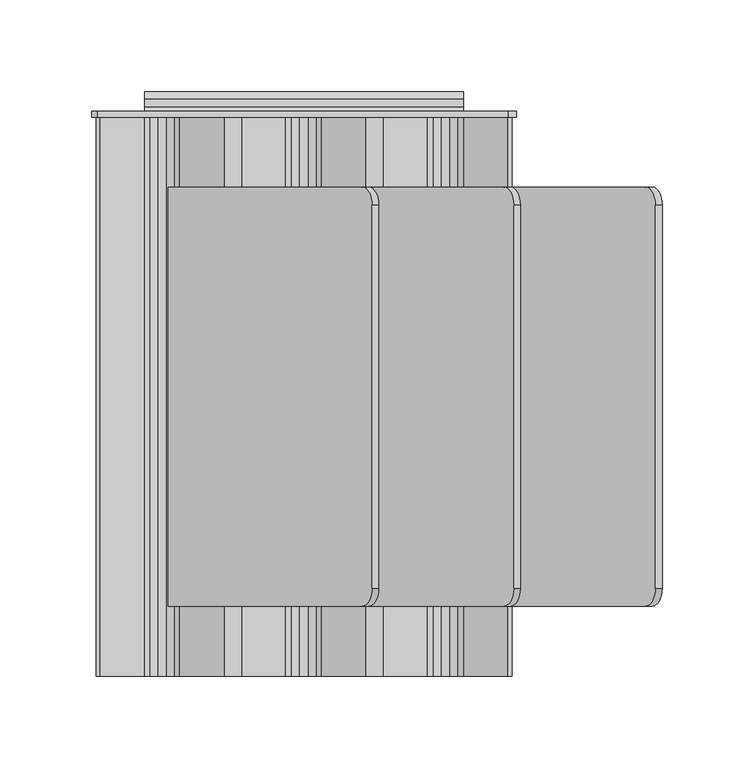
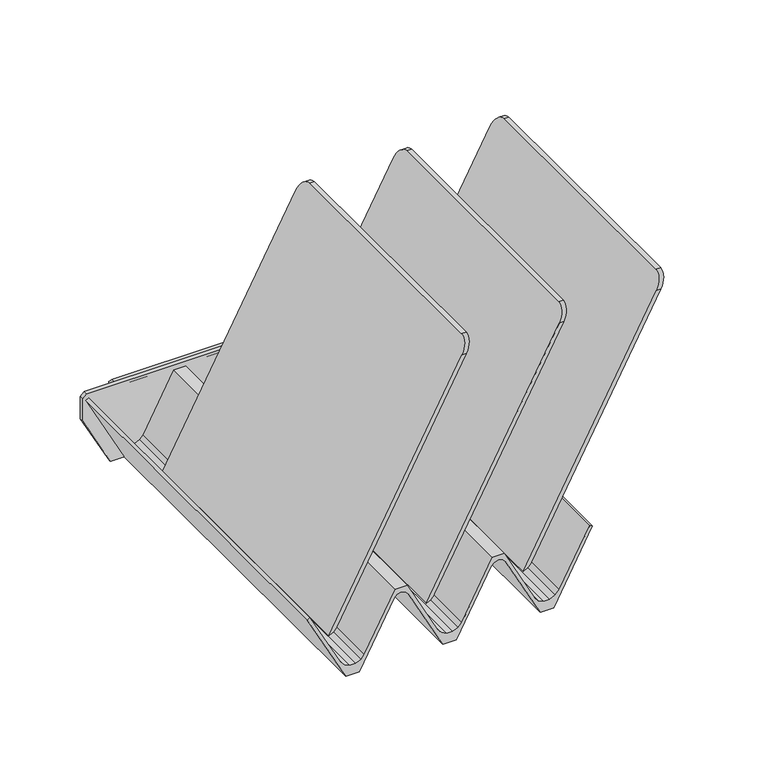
"""IFC4 building model written with IfcOpenShell, lengths in millimetres: furniture geometry."""

import ifcopenshell
import ifcopenshell.guid

model = None  # the IFC model being written
_history = None  # IfcOwnerHistory: only IFC2X3 demands one
_inside = {}  # id of a spatial element -> (the spatial element, [elements in it])
_under = {}  # id of a project, library or spatial element -> (it, [spatial elements below it])
_declared = {}  # id of a project -> (the project, [libraries it declares])
_typed = {}  # id of a type object -> (the type object, [elements of that type])
_made_of = {}  # id of a material, layer set ... -> (it, [elements and type objects made of it])


def new_model(schema):
    """Start an empty IFC model of exactly this schema.

    Asked for "IFC4X3", IfcOpenShell would pick the latest addendum, in which some entities
    have other attributes; the version numbers below select the first issue.
    IFC2X3 requires an IfcOwnerHistory on every rooted entity: one is made here for all.
    """
    global model, _history
    if schema == "IFC4X3":
        model = ifcopenshell.file(schema_version=(4, 3, 0, 0))
    else:
        model = ifcopenshell.file(schema=schema)
    _inside.clear()
    _under.clear()
    _declared.clear()
    _typed.clear()
    _made_of.clear()
    _history = None
    if model.schema == "IFC2X3":
        org = make("IfcOrganization", Name="unknown")
        user = make(
            "IfcPersonAndOrganization",
            ThePerson=make("IfcPerson", FamilyName="unknown"),
            TheOrganization=org,
        )
        app = make(
            "IfcApplication",
            ApplicationDeveloper=org,
            Version="unknown",
            ApplicationFullName="unknown",
            ApplicationIdentifier="unknown",
        )
        _history = make(
            "IfcOwnerHistory",
            OwningUser=user,
            OwningApplication=app,
            ChangeAction="ADDED",
            CreationDate=0,
        )
    return model


def make(cls, **values):
    """One entity of the class cls with the attributes given. An attribute that is None is left unset."""
    return model.create_entity(
        cls, **{name: value for name, value in values.items() if value is not None}
    )


def rooted(cls, **values):
    """An entity with a GlobalId (a new one), such as an element, a storey or a relation."""
    return make(cls, GlobalId=ifcopenshell.guid.new(), OwnerHistory=_history, **values)


def si_unit(unit_type, name, prefix=None):
    """IfcSIUnit, for example si_unit("LENGTHUNIT", "METRE", prefix="MILLI")."""
    return make("IfcSIUnit", UnitType=unit_type, Prefix=prefix, Name=name)


def assignment(units):
    """IfcUnitAssignment: the units of a project."""
    return None if units is None else make("IfcUnitAssignment", Units=units)


def point(xyz):
    """IfcCartesianPoint."""
    return None if xyz is None else make("IfcCartesianPoint", Coordinates=xyz)


def direction(xyz):
    """IfcDirection."""
    return None if xyz is None else make("IfcDirection", DirectionRatios=xyz)


def frame(location, z_axis=None, x_axis=None):
    """IfcAxis2Placement3D, a coordinate frame: its origin and axes. An axis left out is left unset."""
    return make(
        "IfcAxis2Placement3D",
        Location=point(location),
        Axis=direction(z_axis),
        RefDirection=direction(x_axis),
    )


def frame_2d(location, x_axis=None):
    """IfcAxis2Placement2D, a coordinate frame in the plane: its origin and x axis."""
    return make(
        "IfcAxis2Placement2D", Location=point(location), RefDirection=direction(x_axis)
    )


def origin():
    """The frame at (0, 0, 0) with its axes left unset."""
    return frame((0.0, 0.0, 0.0))


def place(relative_to, where):
    """IfcLocalPlacement: puts the frame where relative to a parent placement (None: the world)."""
    return make(
        "IfcLocalPlacement", PlacementRelTo=relative_to, RelativePlacement=where
    )


def context(
    kind, dimensions, precision=None, world=None, true_north=None, identifier=None
):
    """IfcGeometricRepresentationContext, for example the 3D "Model" context."""
    return make(
        "IfcGeometricRepresentationContext",
        ContextIdentifier=identifier,
        ContextType=kind,
        CoordinateSpaceDimension=dimensions,
        Precision=precision,
        WorldCoordinateSystem=world,
        TrueNorth=true_north,
    )


def project(units=None, contexts=None):
    """IfcProject with its units and contexts."""
    return rooted(
        "IfcProject",
        Name="project",
        RepresentationContexts=contexts,
        UnitsInContext=assignment(units),
    )


def spatial(cls, under=None, at=None, **own):
    """A site, building, storey or space (cls), placed at a placement, below another one or the project."""
    s = rooted(cls, ObjectPlacement=at, **own)
    if under is not None:
        _under.setdefault(under.id(), (under, []))[1].append(s)
    return s


def polyline(points):
    """IfcPolyline through the points."""
    return make("IfcPolyline", Points=[point(p) for p in points])


def circle_curve(where, radius):
    """IfcCircle in the frame where."""
    return make("IfcCircle", Position=where, Radius=radius)


def ellipse_curve(where, semi_axis1, semi_axis2):
    """IfcEllipse in the frame where."""
    return make(
        "IfcEllipse", Position=where, SemiAxis1=semi_axis1, SemiAxis2=semi_axis2
    )


def trimmed(basis, trim1, trim2, sense, master):
    """IfcTrimmedCurve: the piece of a basis curve between two trims."""
    return make(
        "IfcTrimmedCurve",
        BasisCurve=basis,
        Trim1=trim1,
        Trim2=trim2,
        SenseAgreement=sense,
        MasterRepresentation=master,
    )


def segment(curve, same_sense, transition):
    """IfcCompositeCurveSegment."""
    return make(
        "IfcCompositeCurveSegment",
        Transition=transition,
        SameSense=same_sense,
        ParentCurve=curve,
    )


def composite_curve(segments, self_intersect=None):
    """IfcCompositeCurve: segments joined end to end."""
    return make("IfcCompositeCurve", Segments=segments, SelfIntersect=self_intersect)


def outline(outer, holes=None, kind="AREA"):
    """IfcArbitraryClosedProfileDef: a profile drawn as a closed curve; with holes, ...WithVoids."""
    if holes is None:
        return make("IfcArbitraryClosedProfileDef", ProfileType=kind, OuterCurve=outer)
    return make(
        "IfcArbitraryProfileDefWithVoids",
        ProfileType=kind,
        OuterCurve=outer,
        InnerCurves=holes,
    )


def extrude(swept, where, along, depth):
    """IfcExtrudedAreaSolid: the profile swept, set in the frame where, extruded along a direction by depth."""
    return make(
        "IfcExtrudedAreaSolid",
        SweptArea=swept,
        Position=where,
        ExtrudedDirection=direction(along),
        Depth=depth,
    )


def shape(context_of_items, identifier, shape_type, items):
    """IfcShapeRepresentation: the items that make up one representation, for example the "Body"."""
    return make(
        "IfcShapeRepresentation",
        ContextOfItems=context_of_items,
        RepresentationIdentifier=identifier,
        RepresentationType=shape_type,
        Items=items,
    )


def source(mapping_origin, context_of_items, identifier, shape_type, items):
    """IfcRepresentationMap: a shape defined once, which mapped items show again and again."""
    return make(
        "IfcRepresentationMap",
        MappingOrigin=mapping_origin,
        MappedRepresentation=shape(context_of_items, identifier, shape_type, items),
    )


def transform(
    local_origin,
    x_axis=None,
    y_axis=None,
    z_axis=None,
    scale=None,
    scale2=None,
    scale3=None,
    uniform=True,
):
    """IfcCartesianTransformationOperator3D, or its non-uniform kind. x_axis, y_axis, z_axis: its Axis1, 2, 3."""
    if uniform:
        return make(
            "IfcCartesianTransformationOperator3D",
            Axis1=direction(x_axis),
            Axis2=direction(y_axis),
            LocalOrigin=point(local_origin),
            Scale=scale,
            Axis3=direction(z_axis),
        )
    return make(
        "IfcCartesianTransformationOperator3DnonUniform",
        Axis1=direction(x_axis),
        Axis2=direction(y_axis),
        LocalOrigin=point(local_origin),
        Scale=scale,
        Axis3=direction(z_axis),
        Scale2=scale2,
        Scale3=scale3,
    )


def mapped(mapping_source, mapping_target):
    """IfcMappedItem: shows the shape of a source again, moved by a transform."""
    return make(
        "IfcMappedItem", MappingSource=mapping_source, MappingTarget=mapping_target
    )


def made_of(thing, what):
    """Note that an element or type object is made of a material, layer set ...; save() writes the relation."""
    if what is not None:
        _made_of.setdefault(what.id(), (what, []))[1].append(thing)
    return thing


def element(
    cls,
    number,
    at=None,
    inside=None,
    cuts=None,
    type_object=None,
    material=None,
    context=None,
    identifier="Body",
    shape_type=None,
    held_by="IfcProductDefinitionShape",
    body=None,
    shapes=None,
    **own,
):
    """One element of the class cls, such as IfcWall. Its Tag is "e" and its number.

    at: its placement. inside: the storey or other place that contains it. cuts: it is an
    opening in that element (IfcRelVoidsElement). A single representation is given by context,
    identifier, shape_type and body (its items); several are given by shapes. held_by: the class
    of the entity that holds the representations. save() writes the other relations.
    """
    e = rooted(cls, Tag="e%d" % number, ObjectPlacement=at, **own)
    if body is not None:
        shapes = [shape(context, identifier, shape_type, body)]
    if shapes is not None:
        e.Representation = make(held_by, Representations=shapes)
    if inside is not None:
        _inside.setdefault(inside.id(), (inside, []))[1].append(e)
    if cuts is not None:
        rooted(
            "IfcRelVoidsElement", RelatingBuildingElement=cuts, RelatedOpeningElement=e
        )
    if type_object is not None:
        _typed.setdefault(type_object.id(), (type_object, []))[1].append(e)
    return made_of(e, material)


def aggregate(whole, parts):
    """IfcRelAggregates: a whole, such as a stair, and the parts it consists of."""
    return rooted("IfcRelAggregates", RelatingObject=whole, RelatedObjects=parts)


def save(model, path):
    """Write the relations noted so far, then the file.

    IfcRelAggregates (storeys below a building ...), IfcRelContainedInSpatialStructure (elements
    in a storey), IfcRelDefinesByType, IfcRelAssociatesMaterial and IfcRelDeclares: one each for
    every whole, place, type object, material and project.
    """
    for whole, parts in _under.values():
        aggregate(whole, parts)
    for where, things in _inside.values():
        rooted(
            "IfcRelContainedInSpatialStructure",
            RelatedElements=things,
            RelatingStructure=where,
        )
    for kind, things in _typed.values():
        rooted("IfcRelDefinesByType", RelatedObjects=things, RelatingType=kind)
    for what, things in _made_of.values():
        rooted("IfcRelAssociatesMaterial", RelatedObjects=things, RelatingMaterial=what)
    for by, libraries in _declared.values():
        rooted("IfcRelDeclares", RelatingContext=by, RelatedDefinitions=libraries)
    model.write(path)


def plane_surface(at):
    """IfcPlane: the flat surface through the origin of the frame at, square to its z axis."""
    return make("IfcPlane", Position=at)


def cylinder_surface(at, radius):
    """IfcCylindricalSurface: all points at the distance radius from the z axis of the frame at."""
    return make("IfcCylindricalSurface", Position=at, Radius=radius)


def advanced_brep(points, edges, surfaces, faces):
    """IfcAdvancedBrep: a solid bounded by faces that lie on surfaces and meet in shared edges.

    An edge is (start, end): straight between two places in points (the first is 0);
    or (start, end, curve); or (start, end, curve, False) where it runs against its curve.
    A face is (place in surfaces, loops), or (place, loops, False) where it looks against
    its surface's normal. A loop lists edges by number (the first is 1), with a minus sign
    where the edge is run from its end to its start. The first loop is the outer one.
    """
    corners = [point(p) for p in points]
    vertices = [make("IfcVertexPoint", VertexGeometry=c) for c in corners]
    made = []
    for start, end, *more in edges:
        made.append(
            make(
                "IfcEdgeCurve",
                EdgeStart=vertices[start],
                EdgeEnd=vertices[end],
                EdgeGeometry=more[0] if more else make("IfcPolyline", Points=[corners[start], corners[end]]),
                SameSense=more[1] if len(more) > 1 else True,
            )
        )
    hull = []
    for where, loops, *sense in faces:
        bounds = []
        for j, loop in enumerate(loops):
            ring = [make("IfcOrientedEdge", EdgeElement=made[abs(k) - 1], Orientation=k > 0) for k in loop]
            bounds.append(
                make(
                    "IfcFaceOuterBound" if j == 0 else "IfcFaceBound",
                    Bound=make("IfcEdgeLoop", EdgeList=ring),
                    Orientation=True,
                )
            )
        hull.append(make("IfcAdvancedFace", Bounds=bounds, FaceSurface=surfaces[where], SameSense=sense[0] if sense else True))
    return make("IfcAdvancedBrep", Outer=make("IfcClosedShell", CfsFaces=hull))


def furniture_23395ff5(model_context):
    return source(origin(), model_context, "Body", "SolidModel", [
        advanced_brep(
        [(-78.5076305, -115.8875182, 752.475), (-74.9117341, -115.8875182, 752.475), (35.3237269, -115.8875182, 959.7977434), (31.7278836, -115.8875182, 959.7977434), (-74.9117341, 112.7124864, 752.475), (-78.5076305, 112.7124864, 752.475), (31.7278836, 112.7124864, 959.7977434), (35.3237269, 112.7124864, 959.7977434), (40.728424, 102.8883555, 969.9625), (40.728424, -105.9830355, 969.9625), (37.1325833, 102.8883555, 969.9625), (37.1325833, -105.9830355, 969.9625)],
        [
            (0, 1),
            (1, 2),
            (2, 3),
            (3, 0),
            (4, 5),
            (5, 6),
            (6, 7),
            (7, 4),
            (0, 5),
            (4, 1),
            (7, 8, ellipse_curve(frame((35.3237269, 102.5418246, 959.7977434), z_axis=(0.8829475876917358, 0.0, -0.46947157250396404), x_axis=(-0.4694715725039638, 0.0, -0.8829475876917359)), 11.518987, 10.1706618)),
            (8, 9),
            (9, 2, ellipse_curve(frame((35.3237269, -105.7193418, 959.7977434), z_axis=(0.8829475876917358, 0.0, -0.46947157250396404), x_axis=(-0.4694715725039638, 0.0, -0.8829475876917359)), 11.5161721, 10.1681764)),
            (8, 10),
            (10, 11),
            (11, 9),
            (3, 11, ellipse_curve(frame((31.7278836, -105.7193418, 959.7977434), z_axis=(-0.8829474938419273, 0.0, 0.46947174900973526), x_axis=(-0.4694717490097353, 0.0, -0.8829474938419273)), 11.5161734, 10.1681764)),
            (10, 6, ellipse_curve(frame((31.7278836, 102.5418246, 959.7977434), z_axis=(-0.8829474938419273, 0.0, 0.46947174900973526), x_axis=(-0.4694717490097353, 0.0, -0.8829474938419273)), 11.5189882, 10.1706618)),
        ],
        [
            plane_surface(frame((-78.5076305, -115.8875182, 752.475), z_axis=(0.0, -1.0, 0.0), x_axis=(1.0, 0.0, 0.0))),
            plane_surface(frame((-78.5076305, 112.7124864, 752.475), z_axis=(0.0, 1.0, 0.0), x_axis=(-1.0, 0.0, 0.0))),
            plane_surface(frame((-78.5076305, -115.8875182, 752.475), z_axis=(0.0, 0.0, -1.0), x_axis=(0.0, 1.0, 0.0))),
            plane_surface(frame((-74.9117341, -115.8875182, 752.475), z_axis=(0.8829475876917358, 0.0, -0.46947157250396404), x_axis=(0.0, 1.0, 0.0))),
            plane_surface(frame((40.728424, -115.8875182, 969.9625), z_axis=(0.0, 0.0, 1.0), x_axis=(0.0, 1.0, 0.0))),
            plane_surface(frame((37.1325833, -115.8875182, 969.9625), z_axis=(-0.8829474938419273, 0.0, 0.46947174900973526), x_axis=(0.0, 1.0, 0.0))),
            cylinder_surface(frame((0.0, 102.5418246, 959.7977434), z_axis=(-1.0, 0.0, 0.0), x_axis=(0.0, 1.0, 0.0)), 10.1706618),
            cylinder_surface(frame((0.0, -105.7193418, 959.7977434), z_axis=(-1.0, 0.0, 0.0), x_axis=(0.0, 1.0, 0.0)), 10.1681764),
        ],
        [
            (0, [[1, 2, 3, 4]]),
            (1, [[5, 6, 7, 8]]),
            (2, [[-1, 9, -5, 10]]),
            (3, [[-10, -8, 11, 12, 13, -2]]),
            (4, [[-12, 14, 15, 16]]),
            (5, [[-9, -4, 17, -15, 18, -6]]),
            (6, [[-7, -18, -14, -11]]),
            (7, [[-3, -13, -16, -17]]),
        ],
    ),
        advanced_brep(
        [(-0.9107932, -115.8875182, 752.475), (2.3550823, -115.8875182, 752.475), (112.5905464, -115.8875182, 959.7977434), (109.0097063, -115.8875182, 959.7977434), (2.3550823, 112.7124864, 752.475), (-0.9107932, 112.7124864, 752.475), (109.0097063, 112.7124864, 959.7977434), (112.5905464, 112.7124864, 959.7977434), (117.9952436, 102.8883555, 969.9625), (117.9952436, -105.9830355, 969.9625), (114.3989613, 102.8883555, 969.9625), (114.3989613, -105.9830355, 969.9625)],
        [
            (0, 1),
            (1, 2),
            (2, 3),
            (3, 0),
            (4, 5),
            (5, 6),
            (6, 7),
            (7, 4),
            (0, 5),
            (4, 1),
            (7, 8, ellipse_curve(frame((112.5905464, 102.5418246, 959.7977434), z_axis=(0.882947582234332, 0.0, -0.46947158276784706), x_axis=(-0.46947158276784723, 0.0, -0.882947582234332)), 11.518987, 10.1706618)),
            (8, 9),
            (9, 2, ellipse_curve(frame((112.5905464, -105.7193418, 959.7977434), z_axis=(0.882947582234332, 0.0, -0.46947158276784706), x_axis=(-0.46947158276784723, 0.0, -0.882947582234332)), 11.5161722, 10.1681764)),
            (8, 10),
            (10, 11),
            (11, 9),
            (3, 11, ellipse_curve(frame((109.0097063, -105.7193418, 959.7977434), z_axis=(-0.88350333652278, 0.0, 0.46842486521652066), x_axis=(-0.4684248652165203, 0.0, -0.8835033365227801)), 11.5089281, 10.1681764)),
            (10, 6, ellipse_curve(frame((109.0097063, 102.5418246, 959.7977434), z_axis=(-0.88350333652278, 0.0, 0.46842486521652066), x_axis=(-0.4684248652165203, 0.0, -0.8835033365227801)), 11.5117412, 10.1706618)),
        ],
        [
            plane_surface(frame((-78.5076305, -115.8875182, 752.475), z_axis=(0.0, -1.0, 0.0), x_axis=(1.0, 0.0, 0.0))),
            plane_surface(frame((-78.5076305, 112.7124864, 752.475), z_axis=(0.0, 1.0, 0.0), x_axis=(-1.0, 0.0, 0.0))),
            plane_surface(frame((-0.9107932, -115.8875182, 752.475), z_axis=(0.0, 0.0, -1.0), x_axis=(0.0, 1.0, 0.0))),
            plane_surface(frame((2.3550823, -115.8875182, 752.475), z_axis=(0.882947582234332, 0.0, -0.46947158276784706), x_axis=(0.0, 1.0, 0.0))),
            plane_surface(frame((117.9952436, -115.8875182, 969.9625), z_axis=(0.0, 0.0, 1.0), x_axis=(0.0, 1.0, 0.0))),
            plane_surface(frame((114.3989613, -115.8875182, 969.9625), z_axis=(-0.88350333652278, 0.0, 0.46842486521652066), x_axis=(0.0, 1.0, 0.0))),
            cylinder_surface(frame((0.0, 102.5418246, 959.7977434), z_axis=(-1.0, 0.0, 0.0), x_axis=(0.0, 1.0, 0.0)), 10.1706618),
            cylinder_surface(frame((0.0, -105.7193418, 959.7977434), z_axis=(-1.0, 0.0, 0.0), x_axis=(0.0, 1.0, 0.0)), 10.1681764),
        ],
        [
            (0, [[1, 2, 3, 4]]),
            (1, [[5, 6, 7, 8]]),
            (2, [[-1, 9, -5, 10]]),
            (3, [[-10, -8, 11, 12, 13, -2]]),
            (4, [[-12, 14, 15, 16]]),
            (5, [[-9, -4, 17, -15, 18, -6]]),
            (6, [[-7, -18, -14, -11]]),
            (7, [[-3, -13, -16, -17]]),
        ],
    ),
        advanced_brep(
        [(76.0259689, -115.8875182, 752.475), (79.7811739, -115.8875182, 752.475), (190.0166176, -115.8875182, 959.7977434), (186.2614289, -115.8875182, 959.7977434), (79.7811739, 112.7124864, 752.475), (76.0259689, 112.7124864, 752.475), (186.2614289, 112.7124864, 959.7977434), (190.0166176, 112.7124864, 959.7977434), (195.4213139, 102.8883555, 969.9625), (195.4213139, -105.9830355, 969.9625), (191.666126, 102.8883555, 969.9625), (191.666126, -105.9830355, 969.9625)],
        [
            (0, 1),
            (1, 2),
            (2, 3),
            (3, 0),
            (4, 5),
            (5, 6),
            (6, 7),
            (7, 4),
            (0, 5),
            (4, 1),
            (7, 8, ellipse_curve(frame((190.0166176, 102.5418246, 959.7977434), z_axis=(0.8829476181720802, 0.0, -0.46947151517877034), x_axis=(-0.46947151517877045, 0.0, -0.88294761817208)), 11.5189866, 10.1706618)),
            (8, 9),
            (9, 2, ellipse_curve(frame((190.0166176, -105.7193418, 959.7977434), z_axis=(0.8829476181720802, 0.0, -0.46947151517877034), x_axis=(-0.46947151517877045, 0.0, -0.88294761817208)), 11.5161717, 10.1681764)),
            (8, 10),
            (10, 11),
            (11, 9),
            (3, 11, ellipse_curve(frame((186.2614289, -105.7193418, 959.7977434), z_axis=(-0.882947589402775, 0.0, 0.4694715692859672), x_axis=(-0.4694715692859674, 0.0, -0.8829475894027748)), 11.5161721, 10.1681764)),
            (10, 6, ellipse_curve(frame((186.2614289, 102.5418246, 959.7977434), z_axis=(-0.882947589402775, 0.0, 0.4694715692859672), x_axis=(-0.4694715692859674, 0.0, -0.8829475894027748)), 11.5189869, 10.1706618)),
        ],
        [
            plane_surface(frame((-78.5076305, -115.8875182, 752.475), z_axis=(0.0, -1.0, 0.0), x_axis=(1.0, 0.0, 0.0))),
            plane_surface(frame((-78.5076305, 112.7124864, 752.475), z_axis=(0.0, 1.0, 0.0), x_axis=(-1.0, 0.0, 0.0))),
            plane_surface(frame((76.0259689, -115.8875182, 752.475), z_axis=(0.0, 0.0, -1.0), x_axis=(0.0, 1.0, 0.0))),
            plane_surface(frame((79.7811739, -115.8875182, 752.475), z_axis=(0.8829476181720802, 0.0, -0.46947151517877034), x_axis=(0.0, 1.0, 0.0))),
            plane_surface(frame((195.4213139, -115.8875182, 969.9625), z_axis=(0.0, 0.0, 1.0), x_axis=(0.0, 1.0, 0.0))),
            plane_surface(frame((191.666126, -115.8875182, 969.9625), z_axis=(-0.882947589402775, 0.0, 0.4694715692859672), x_axis=(0.0, 1.0, 0.0))),
            cylinder_surface(frame((0.0, 102.5418246, 959.7977434), z_axis=(-1.0, 0.0, 0.0), x_axis=(0.0, 1.0, 0.0)), 10.1706618),
            cylinder_surface(frame((0.0, -105.7193418, 959.7977434), z_axis=(-1.0, 0.0, 0.0), x_axis=(0.0, 1.0, 0.0)), 10.1681764),
        ],
        [
            (0, [[1, 2, 3, 4]]),
            (1, [[5, 6, 7, 8]]),
            (2, [[-1, 9, -5, 10]]),
            (3, [[-10, -8, 11, 12, 13, -2]]),
            (4, [[-12, 14, 15, 16]]),
            (5, [[-9, -4, 17, -15, 18, -6]]),
            (6, [[-7, -18, -14, -11]]),
            (7, [[-3, -13, -16, -17]]),
        ],
    ),
        extrude(outline(polyline([(810.6615504, -113.3404132), (752.475, -82.6180755), (752.475, -71.8286766), (804.9990623, -44.096121), (807.2656431, -41.9545616), (808.1773762, -38.676187), (807.2656431, -35.3978079), (804.7922571, -33.0608503), (752.475, -5.4374818), (752.475, 5.4381185), (804.9990614, 33.170679), (807.2656431, 35.3122394), (808.1773762, 38.5906094), (807.2656431, 41.8689885), (804.7364359, 44.2586883), (752.475, 71.9155202), (752.475, 82.7049229), (810.661546, 113.4272483), (811.7778432, 111.3130508), (766.3305096, 87.1482781), (762.6751541, 84.0519156), (760.6607104, 79.7054876), (760.6607104, 74.9149551), (762.6751541, 70.5685271), (766.4355361, 67.3831993), (811.8474984, 43.2968127), (811.8474984, 33.9240014), (765.8254275, 9.4536309), (762.6751541, 6.7851111), (760.6607104, 2.4386922), (760.6607104, -2.3518493), (763.1104746, -6.6982682), (766.6699621, -9.9738698), (811.8474984, -33.8274808), (811.8474984, -43.3428158), (765.8253747, -67.8132137), (762.6751541, -70.4816887), (760.6607104, -74.8281031), (760.6607104, -79.6186492), (762.6751541, -83.9650636), (766.3305262, -87.0614424), (811.847503, -111.0942793), (810.6615504, -113.3404132)])), frame((0.0, -153.9875, 0.0), z_axis=(0.0, 1.0, 0.0), x_axis=(0.0, 0.0, 1.0)), (0.0, 0.0, 1.0), 304.7999878),
        extrude(outline(polyline([(812.7999994, -115.844077), (794.1649607, -115.844077), (752.475, -93.8318941), (752.475, 93.918737), (794.1649607, 115.930929), (812.7999984, 115.930929), (815.9749985, 111.5932577), (815.9749985, -112.669078), (812.7999994, -115.844077)])), frame((0.0, 150.8124878, 0.0), z_axis=(0.0, 1.0, 0.0), x_axis=(0.0, 0.0, 1.0)), (0.0, 0.0, 1.0), 3.1750122),
        extrude(outline(composite_curve([segment(polyline([(164.6784774, 808.9862114), (164.6784774, 806.4084605)]), True, "CONTINUOUS"), segment(trimmed(circle_curve(frame_2d((162.7734784, 806.4084605)), 1.904999), [point((164.6784774, 806.4084605))], [point((160.8684793, 806.4084605))], False, "CARTESIAN"), True, "CONTINUOUS"), segment(polyline([(160.8684793, 806.4084605), (160.8684793, 808.9862114), (156.5435882, 808.9862114), (153.9875, 806.4301232), (153.9875, 815.9749985), (156.5435882, 812.7962113), (160.8684775, 812.7962113), (164.6784774, 808.9862114)]), True, "CONTINUOUS")], self_intersect=False)), frame((-87.0345642, 0.0, 0.0), z_axis=(1.0, 0.0, 0.0), x_axis=(0.0, 1.0, 0.0)), (0.0, 0.0, 1.0), 174.0691284),
    ])


if __name__ == "__main__":
    model = new_model("IFC4")
    model_context = context("Model", 3, world=origin())
    ifc_project = project(units=[si_unit("LENGTHUNIT", "METRE", prefix="MILLI")], contexts=[model_context])
    site = spatial("IfcSite", under=ifc_project)
    building = spatial("IfcBuilding", under=site)
    placement = place(None, origin())
    furniture_shape = furniture_23395ff5(model_context)
    element("IfcFurniture", 1, ObjectType="HermanMiller_ThrivePortfolio_Y7218_DiagonalTray : 8 1/2\"H x 12\"D x 13\"W", at=placement, inside=building, context=model_context, shape_type="MappedRepresentation", body=[
        mapped(furniture_shape, transform((0.0, 0.0, 0.0), x_axis=(1.0, 0.0, 0.0), y_axis=(0.0, 1.0, 0.0), z_axis=(0.0, 0.0, 1.0))),
    ])
    save(model, "model.ifc")
